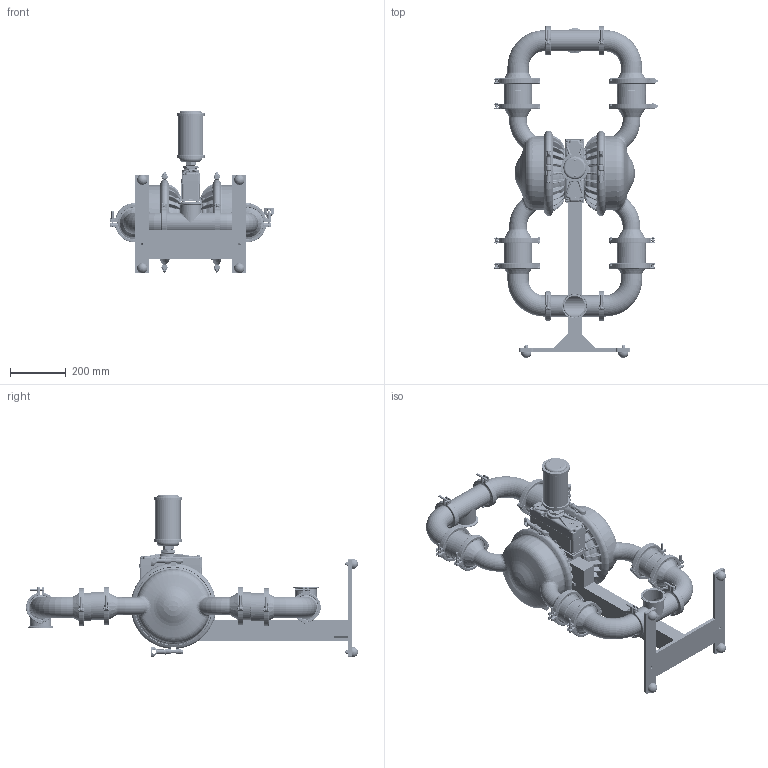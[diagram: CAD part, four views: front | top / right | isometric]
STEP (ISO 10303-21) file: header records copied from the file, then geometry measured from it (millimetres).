
FILE_DESCRIPTION((''),'2;1');
FILE_NAME('PS15_SS_SANIFLO_HS_BA_SW0009','2015-04-28T',('nathan.hale'),(''),'PRO/ENGINEER BY PARAMETRIC TECHNOLOGY CORPORATION, 2013320','PRO/ENGINEER BY PARAMETRIC TECHNOLOGY CORPORATION, 2013320','');
FILE_SCHEMA(('CONFIG_CONTROL_DESIGN'));
Products named in the file (1): PS15_SS_SANIFLO_HS_BA_SW0009
Bounding box: 588.82 x 1193.95 x 585.8 mm (x, y, z)
Volume: 11778469.3 mm3; surface area: 3450696.7 mm2
Topology: 22 solids, 35 shells, 16845 faces, 42582 edges, 26068 vertices
Faces by surface type: plane 7687, bspline 2754, cylinder 2698, torus 2039, cone 992, sphere 593, extrusion 82
Entity records: 715509 total; most frequent: CARTESIAN_POINT 327447, ORIENTED_EDGE 84606, DIRECTION 76146, EDGE_CURVE 42303, AXIS2_PLACEMENT_3D 26315, VERTEX_POINT 26068, VECTOR 23516, LINE 23434
